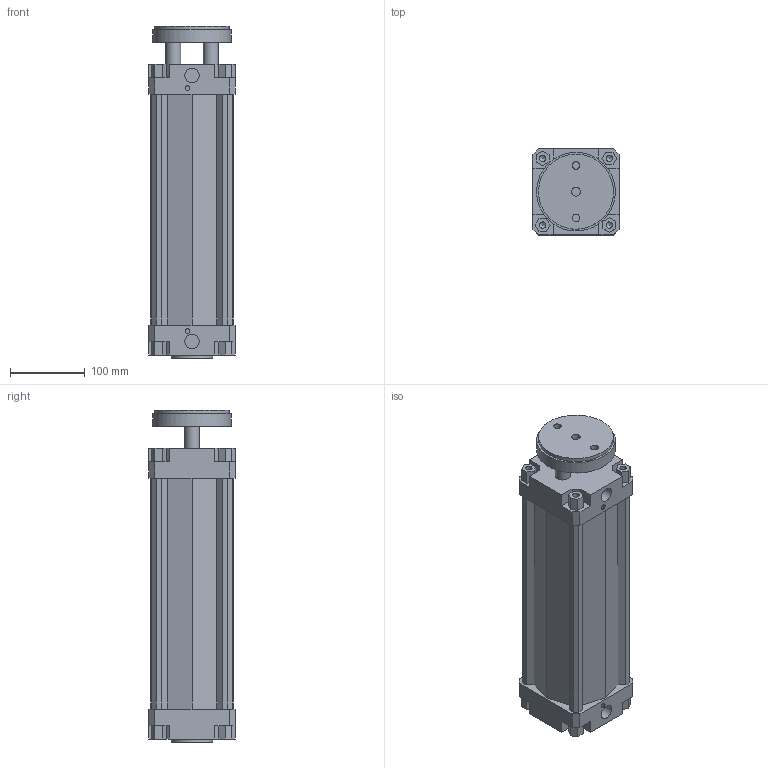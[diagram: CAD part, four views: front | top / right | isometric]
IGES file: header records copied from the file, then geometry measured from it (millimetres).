
Global section: file name: 132#_100_0250_01; native system: Autodesk Inventor 2014; preprocessor: unknown; author: A. Manieri; date: 20161006.163723; units: millimetre
Bounding box: 115 x 115 x 443 mm (x, y, z)
Volume: 2555910.9 mm3; surface area: 436916.4 mm2
Topology: 2 solids, 2 shells, 180 faces, 491 edges, 335 vertices
Faces by surface type: bspline 180
